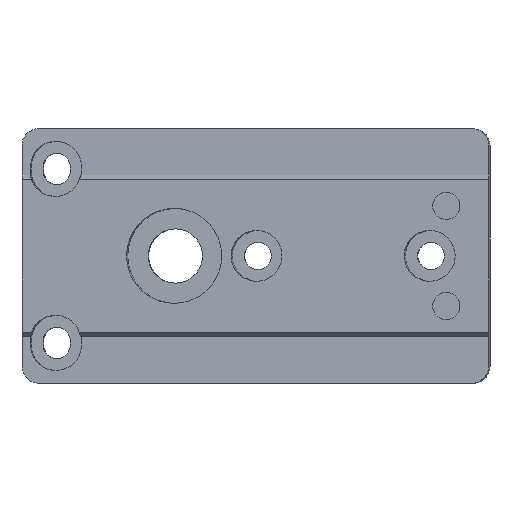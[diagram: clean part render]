
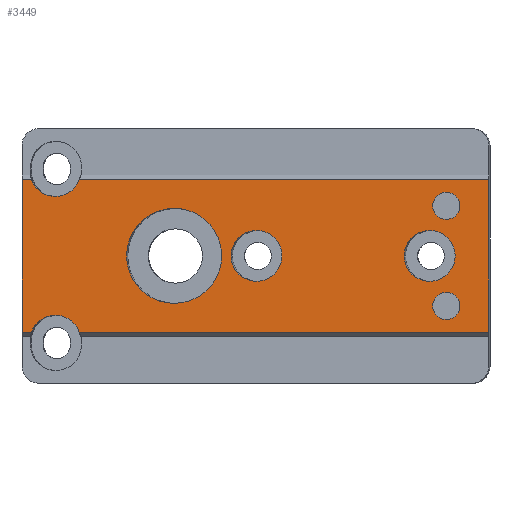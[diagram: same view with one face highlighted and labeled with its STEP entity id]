
A CAD part, top view. The second image highlights one B-rep face of the part: STEP entity #3449.
In plain terms, the highlighted planar face has unit normal (0, 0, 1).
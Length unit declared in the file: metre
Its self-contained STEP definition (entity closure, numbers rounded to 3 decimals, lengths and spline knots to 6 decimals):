
#102=ELLIPSE('',#3676,0.005601,0.0056);
#103=ELLIPSE('',#3677,0.003,0.003);
#104=ELLIPSE('',#3678,0.003,0.003);
#105=ELLIPSE('',#3681,0.003,0.003);
#106=ELLIPSE('',#3682,0.003,0.003);
#180=CIRCLE('',#3679,0.0016);
#181=CIRCLE('',#3680,0.0016);
#263=ORIENTED_EDGE('',*,*,#1295,.T.);
#264=ORIENTED_EDGE('',*,*,#1296,.T.);
#265=ORIENTED_EDGE('',*,*,#1297,.T.);
#266=ORIENTED_EDGE('',*,*,#1298,.T.);
#267=ORIENTED_EDGE('',*,*,#1299,.T.);
#268=ORIENTED_EDGE('',*,*,#1300,.F.);
#269=ORIENTED_EDGE('',*,*,#1301,.T.);
#270=ORIENTED_EDGE('',*,*,#1302,.F.);
#271=ORIENTED_EDGE('',*,*,#1303,.T.);
#272=ORIENTED_EDGE('',*,*,#1304,.F.);
#273=ORIENTED_EDGE('',*,*,#1305,.T.);
#274=ORIENTED_EDGE('',*,*,#1306,.T.);
#275=ORIENTED_EDGE('',*,*,#1307,.T.);
#1295=EDGE_CURVE('',#1811,#1811,#102,.T.);
#1296=EDGE_CURVE('',#1812,#1812,#103,.T.);
#1297=EDGE_CURVE('',#1813,#1813,#104,.T.);
#1298=EDGE_CURVE('',#1814,#1814,#180,.T.);
#1299=EDGE_CURVE('',#1815,#1815,#181,.T.);
#1300=EDGE_CURVE('',#1816,#1817,#105,.F.);
#1301=EDGE_CURVE('',#1816,#1818,#2140,.T.);
#1302=EDGE_CURVE('',#1819,#1818,#2141,.T.);
#1303=EDGE_CURVE('',#1819,#1820,#2142,.T.);
#1304=EDGE_CURVE('',#1821,#1820,#106,.F.);
#1305=EDGE_CURVE('',#1821,#1822,#2143,.T.);
#1306=EDGE_CURVE('',#1822,#1823,#2144,.T.);
#1307=EDGE_CURVE('',#1823,#1817,#2145,.T.);
#1811=VERTEX_POINT('',#4859);
#1812=VERTEX_POINT('',#4861);
#1813=VERTEX_POINT('',#4863);
#1814=VERTEX_POINT('',#4865);
#1815=VERTEX_POINT('',#4867);
#1816=VERTEX_POINT('',#4869);
#1817=VERTEX_POINT('',#4870);
#1818=VERTEX_POINT('',#4872);
#1819=VERTEX_POINT('',#4874);
#1820=VERTEX_POINT('',#4876);
#1821=VERTEX_POINT('',#4878);
#1822=VERTEX_POINT('',#4880);
#1823=VERTEX_POINT('',#4882);
#2140=LINE('',#4871,#2512);
#2141=LINE('',#4873,#2513);
#2142=LINE('',#4875,#2514);
#2143=LINE('',#4879,#2515);
#2144=LINE('',#4881,#2516);
#2145=LINE('',#4883,#2517);
#2512=VECTOR('',#3983,1.);
#2513=VECTOR('',#3984,1.);
#2514=VECTOR('',#3985,1.);
#2515=VECTOR('',#3988,1.);
#2516=VECTOR('',#3989,1.);
#2517=VECTOR('',#3990,1.);
#2871=EDGE_LOOP('',(#263));
#2872=EDGE_LOOP('',(#264));
#2873=EDGE_LOOP('',(#265));
#2874=EDGE_LOOP('',(#266));
#2875=EDGE_LOOP('',(#267));
#2876=EDGE_LOOP('',(#268,#269,#270,#271,#272,#273,#274,#275));
#3099=FACE_BOUND('',#2871,.T.);
#3100=FACE_BOUND('',#2872,.T.);
#3101=FACE_BOUND('',#2873,.T.);
#3102=FACE_BOUND('',#2874,.T.);
#3103=FACE_BOUND('',#2875,.T.);
#3104=FACE_BOUND('',#2876,.T.);
#3319=PLANE('',#3675);
#3449=ADVANCED_FACE('',(#3099,#3100,#3101,#3102,#3103,#3104),#3319,.F.);
#3675=AXIS2_PLACEMENT_3D('',#4857,#3969,#3970);
#3676=AXIS2_PLACEMENT_3D('',#4858,#3971,#3972);
#3677=AXIS2_PLACEMENT_3D('',#4860,#3973,#3974);
#3678=AXIS2_PLACEMENT_3D('',#4862,#3975,#3976);
#3679=AXIS2_PLACEMENT_3D('',#4864,#3977,#3978);
#3680=AXIS2_PLACEMENT_3D('',#4866,#3979,#3980);
#3681=AXIS2_PLACEMENT_3D('',#4868,#3981,#3982);
#3682=AXIS2_PLACEMENT_3D('',#4877,#3986,#3987);
#3969=DIRECTION('',(0.,0.,-1.));
#3970=DIRECTION('',(-1.,0.,0.));
#3971=DIRECTION('',(0.,0.,-1.));
#3972=DIRECTION('',(1.,0.,0.));
#3973=DIRECTION('',(0.,0.,-1.));
#3974=DIRECTION('',(1.,0.,0.));
#3975=DIRECTION('',(0.,0.,-1.));
#3976=DIRECTION('',(1.,0.,0.));
#3977=DIRECTION('',(0.,0.,-1.));
#3978=DIRECTION('',(-1.,0.,0.));
#3979=DIRECTION('',(0.,0.,-1.));
#3980=DIRECTION('',(-1.,0.,0.));
#3981=DIRECTION('',(0.,0.,-1.));
#3982=DIRECTION('',(1.,0.,0.));
#3983=DIRECTION('',(1.,0.,0.));
#3984=DIRECTION('',(0.,-1.,0.));
#3985=DIRECTION('',(-1.,0.,0.));
#3986=DIRECTION('',(0.,0.,-1.));
#3987=DIRECTION('',(1.,0.,0.));
#3988=DIRECTION('',(-1.,0.,0.));
#3989=DIRECTION('',(0.,-1.,0.));
#3990=DIRECTION('',(1.,0.,0.));
#4857=CARTESIAN_POINT('',(0.055,0.,0.0041));
#4858=CARTESIAN_POINT('',(0.017931,0.,0.0041));
#4859=CARTESIAN_POINT('',(0.023532,0.,0.0041));
#4860=CARTESIAN_POINT('',(0.048036,0.,0.0041));
#4861=CARTESIAN_POINT('',(0.051036,0.,0.0041));
#4862=CARTESIAN_POINT('',(0.027633,0.,0.0041));
#4863=CARTESIAN_POINT('',(0.030633,0.,0.0041));
#4864=CARTESIAN_POINT('',(0.05,0.0059,0.0041));
#4865=CARTESIAN_POINT('',(0.0484,0.0059,0.0041));
#4866=CARTESIAN_POINT('',(0.05,-0.0059,0.0041));
#4867=CARTESIAN_POINT('',(0.0484,-0.0059,0.0041));
#4868=CARTESIAN_POINT('',(0.003929,-0.01,0.0041));
#4869=CARTESIAN_POINT('',(0.006759,-0.009004,0.0041));
#4870=CARTESIAN_POINT('',(0.001099,-0.009004,0.0041));
#4871=CARTESIAN_POINT('',(0.055,-0.009004,0.0041));
#4872=CARTESIAN_POINT('',(0.055,-0.009004,0.0041));
#4873=CARTESIAN_POINT('',(0.055,0.,0.0041));
#4874=CARTESIAN_POINT('',(0.055,0.009004,0.0041));
#4875=CARTESIAN_POINT('',(0.,0.009004,0.0041));
#4876=CARTESIAN_POINT('',(0.006759,0.009004,0.0041));
#4877=CARTESIAN_POINT('',(0.003929,0.01,0.0041));
#4878=CARTESIAN_POINT('',(0.001099,0.009004,0.0041));
#4879=CARTESIAN_POINT('',(0.,0.009004,0.0041));
#4880=CARTESIAN_POINT('',(0.,0.009004,0.0041));
#4881=CARTESIAN_POINT('',(0.,0.,0.0041));
#4882=CARTESIAN_POINT('',(0.,-0.009004,0.0041));
#4883=CARTESIAN_POINT('',(0.055,-0.009004,0.0041));
